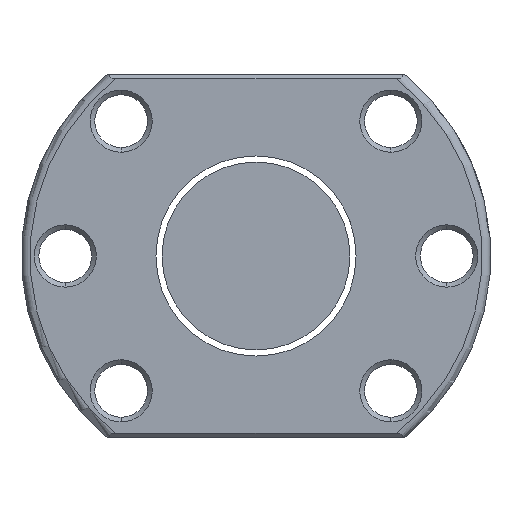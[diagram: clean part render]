
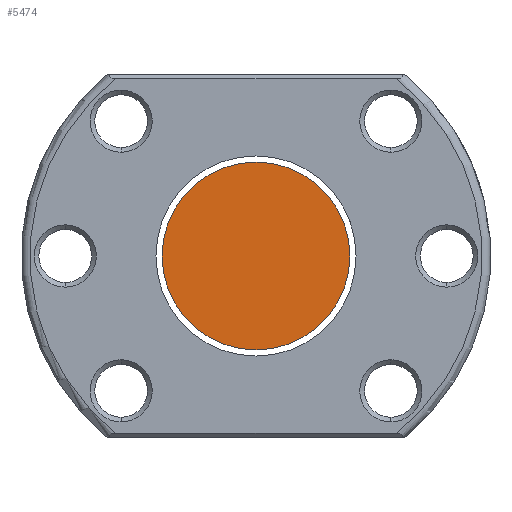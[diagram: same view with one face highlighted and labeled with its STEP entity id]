
A CAD part, left-side view. The second image highlights one B-rep face of the part: STEP entity #5474.
In plain terms, the highlighted planar face has unit normal (-1, 0, 0).
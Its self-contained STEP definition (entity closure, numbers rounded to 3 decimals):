
#7 = EDGE_CURVE ( 'NONE', #4785, #1572, #3371, .T. ) ;
#55 = EDGE_LOOP ( 'NONE', ( #2859, #1444 ) ) ;
#526 = CARTESIAN_POINT ( 'NONE',  ( -270., 0., 0. ) ) ;
#584 = DIRECTION ( 'NONE',  ( -1., 0., 0. ) ) ;
#1013 = CARTESIAN_POINT ( 'NONE',  ( -270., 0., 0. ) ) ;
#1404 = CARTESIAN_POINT ( 'NONE',  ( -270., 0., 16. ) ) ;
#1444 = ORIENTED_EDGE ( 'NONE', *, *, #7, .F. ) ;
#1572 = VERTEX_POINT ( 'NONE', #5316 ) ;
#1931 = DIRECTION ( 'NONE',  ( 1., 0., 0. ) ) ;
#2419 = DIRECTION ( 'NONE',  ( 1., 0., 0. ) ) ;
#2480 = DIRECTION ( 'NONE',  ( 0., 0., -1. ) ) ;
#2482 = DIRECTION ( 'NONE',  ( 0., 0., -1. ) ) ;
#2569 = AXIS2_PLACEMENT_3D ( 'NONE', #526, #584, #5661 ) ;
#2783 = AXIS2_PLACEMENT_3D ( 'NONE', #1013, #2419, #2480 ) ;
#2845 = PLANE ( 'NONE',  #2569 ) ;
#2859 = ORIENTED_EDGE ( 'NONE', *, *, #5422, .F. ) ;
#2906 = CARTESIAN_POINT ( 'NONE',  ( -270., 0., 0. ) ) ;
#3371 = CIRCLE ( 'NONE', #2783, 16. ) ;
#3628 = AXIS2_PLACEMENT_3D ( 'NONE', #2906, #1931, #2482 ) ;
#4312 = CIRCLE ( 'NONE', #3628, 16. ) ;
#4763 = FACE_OUTER_BOUND ( 'NONE', #55, .T. ) ;
#4785 = VERTEX_POINT ( 'NONE', #1404 ) ;
#5316 = CARTESIAN_POINT ( 'NONE',  ( -270., 0., -16. ) ) ;
#5422 = EDGE_CURVE ( 'NONE', #1572, #4785, #4312, .T. ) ;
#5474 = ADVANCED_FACE ( 'NONE', ( #4763 ), #2845, .T. ) ;
#5661 = DIRECTION ( 'NONE',  ( 0., 0., 1. ) ) ;
